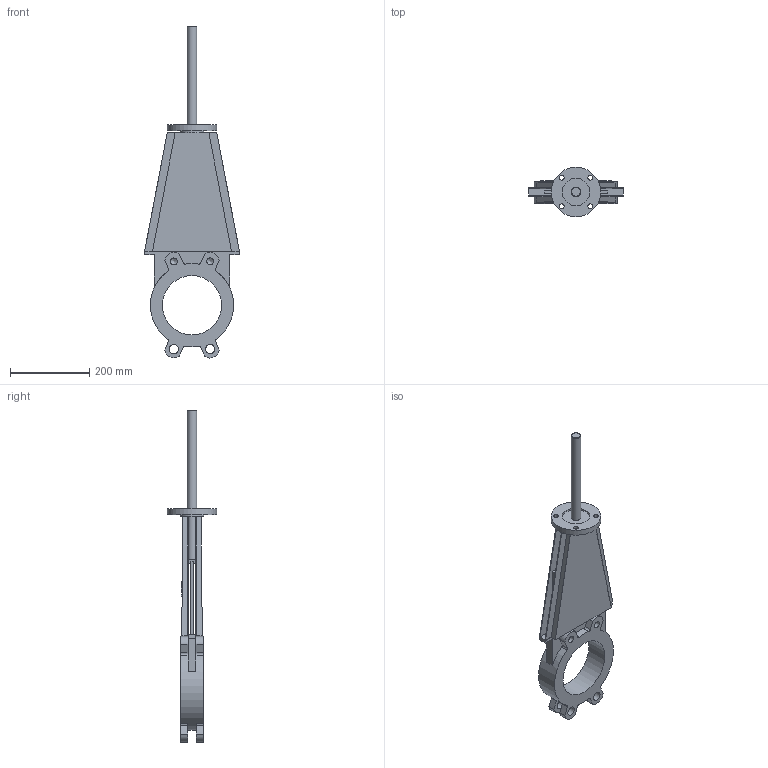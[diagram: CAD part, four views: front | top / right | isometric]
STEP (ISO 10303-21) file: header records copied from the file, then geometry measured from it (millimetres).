
FILE_DESCRIPTION(('STEP AP203'), '1');
FILE_NAME('K51GVA_DN150', '', ('UNSPECIFIED'), ('UNSPECIFIED'), 'ASCON STEP Converter 1.6', 'ASCON Math Kernel', '');
FILE_SCHEMA(('CONFIG_CONTROL_DESIGN'));
Length unit declared in the file: millimetre
Bounding box: 240 x 125 x 839.4 mm (x, y, z)
Volume: 2115329.8 mm3; surface area: 529842 mm2
Topology: 1 solids, 1 shells, 155 faces, 434 edges, 281 vertices
Faces by surface type: plane 98, cylinder 52, cone 5
Full cylindrical faces by diameter (mm): 12 x4, 17.294 x4, 23 x4, 24 x2, 60 x1, 70 x1, 125 x1, 150 x1
Entity records: 6158 total; most frequent: DIRECTION 848, CARTESIAN_POINT 840, ORIENTED_EDGE 814, EDGE_CURVE 407, AXIS2_PLACEMENT_3D 285, LINE 278, VECTOR 278, VERTEX_POINT 277
